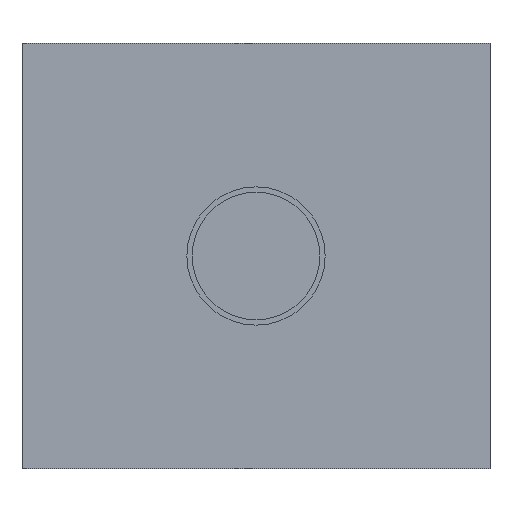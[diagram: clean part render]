
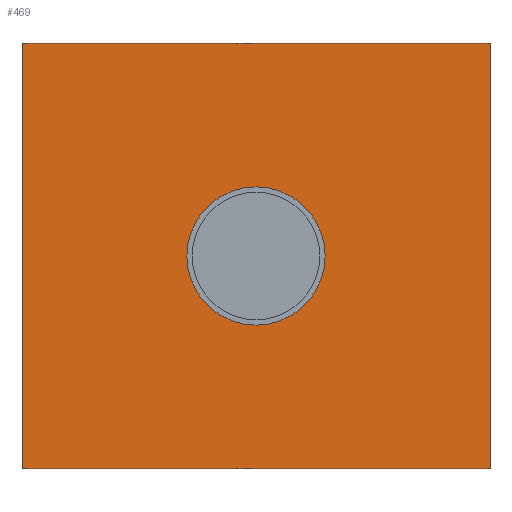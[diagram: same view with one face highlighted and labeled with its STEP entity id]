
A CAD part, left-side view. The second image highlights one B-rep face of the part: STEP entity #469.
In plain terms, the highlighted planar face has unit normal (-1, 0, 0).
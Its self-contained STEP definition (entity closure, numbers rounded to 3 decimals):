
#15 = FACE_OUTER_BOUND ( 'NONE', #928, .T. ) ;
#31 = CARTESIAN_POINT ( 'NONE',  ( 0., 0., 0. ) ) ;
#74 = VERTEX_POINT ( 'NONE', #1449 ) ;
#132 = AXIS2_PLACEMENT_3D ( 'NONE', #559, #969, #852 ) ;
#176 = LINE ( 'NONE', #994, #506 ) ;
#199 = EDGE_CURVE ( 'NONE', #74, #391, #338, .T. ) ;
#208 = DIRECTION ( 'NONE',  ( 1., 0., 0. ) ) ;
#337 = LINE ( 'NONE', #424, #1466 ) ;
#338 = CIRCLE ( 'NONE', #1184, 3.25 ) ;
#341 = LINE ( 'NONE', #1144, #598 ) ;
#349 = CARTESIAN_POINT ( 'NONE',  ( 0., -11., -10. ) ) ;
#361 = AXIS2_PLACEMENT_3D ( 'NONE', #795, #208, #1164 ) ;
#372 = DIRECTION ( 'NONE',  ( 1., 0., 0. ) ) ;
#391 = VERTEX_POINT ( 'NONE', #1467 ) ;
#424 = CARTESIAN_POINT ( 'NONE',  ( 0., 11., 10. ) ) ;
#460 = EDGE_LOOP ( 'NONE', ( #1113, #1088 ) ) ;
#469 = ADVANCED_FACE ( 'NONE', ( #15, #493 ), #805, .T. ) ;
#493 = FACE_BOUND ( 'NONE', #460, .T. ) ;
#504 = ORIENTED_EDGE ( 'NONE', *, *, #1268, .T. ) ;
#506 = VECTOR ( 'NONE', #636, 1000. ) ;
#511 = DIRECTION ( 'NONE',  ( 0., 0., -1. ) ) ;
#559 = CARTESIAN_POINT ( 'NONE',  ( 0., 11., 10. ) ) ;
#561 = EDGE_CURVE ( 'NONE', #763, #915, #176, .T. ) ;
#598 = VECTOR ( 'NONE', #1270, 1000. ) ;
#636 = DIRECTION ( 'NONE',  ( 0., -1., 0. ) ) ;
#720 = CARTESIAN_POINT ( 'NONE',  ( 0., 11., 10. ) ) ;
#723 = EDGE_CURVE ( 'NONE', #391, #74, #932, .T. ) ;
#763 = VERTEX_POINT ( 'NONE', #1064 ) ;
#795 = CARTESIAN_POINT ( 'NONE',  ( 0., 0., 0. ) ) ;
#805 = PLANE ( 'NONE',  #132 ) ;
#836 = VERTEX_POINT ( 'NONE', #1547 ) ;
#852 = DIRECTION ( 'NONE',  ( 0., 0., 1. ) ) ;
#869 = VERTEX_POINT ( 'NONE', #720 ) ;
#898 = ORIENTED_EDGE ( 'NONE', *, *, #1067, .T. ) ;
#915 = VERTEX_POINT ( 'NONE', #349 ) ;
#928 = EDGE_LOOP ( 'NONE', ( #898, #1349, #1240, #504 ) ) ;
#932 = CIRCLE ( 'NONE', #361, 3.25 ) ;
#969 = DIRECTION ( 'NONE',  ( -1., 0., 0. ) ) ;
#994 = CARTESIAN_POINT ( 'NONE',  ( 0., 11., -10. ) ) ;
#1064 = CARTESIAN_POINT ( 'NONE',  ( 0., 11., -10. ) ) ;
#1067 = EDGE_CURVE ( 'NONE', #869, #763, #341, .T. ) ;
#1075 = LINE ( 'NONE', #1556, #1510 ) ;
#1088 = ORIENTED_EDGE ( 'NONE', *, *, #199, .T. ) ;
#1113 = ORIENTED_EDGE ( 'NONE', *, *, #723, .T. ) ;
#1144 = CARTESIAN_POINT ( 'NONE',  ( 0., 11., 10. ) ) ;
#1164 = DIRECTION ( 'NONE',  ( 0., 0., -1. ) ) ;
#1184 = AXIS2_PLACEMENT_3D ( 'NONE', #31, #372, #511 ) ;
#1201 = DIRECTION ( 'NONE',  ( 0., 0., 1. ) ) ;
#1240 = ORIENTED_EDGE ( 'NONE', *, *, #1412, .T. ) ;
#1268 = EDGE_CURVE ( 'NONE', #836, #869, #337, .T. ) ;
#1270 = DIRECTION ( 'NONE',  ( 0., 0., -1. ) ) ;
#1349 = ORIENTED_EDGE ( 'NONE', *, *, #561, .T. ) ;
#1412 = EDGE_CURVE ( 'NONE', #915, #836, #1075, .T. ) ;
#1449 = CARTESIAN_POINT ( 'NONE',  ( 0., 0., 3.25 ) ) ;
#1466 = VECTOR ( 'NONE', #1520, 1000. ) ;
#1467 = CARTESIAN_POINT ( 'NONE',  ( 0., 0., -3.25 ) ) ;
#1510 = VECTOR ( 'NONE', #1201, 1000. ) ;
#1520 = DIRECTION ( 'NONE',  ( 0., 1., 0. ) ) ;
#1547 = CARTESIAN_POINT ( 'NONE',  ( 0., -11., 10. ) ) ;
#1556 = CARTESIAN_POINT ( 'NONE',  ( 0., -11., 10. ) ) ;
